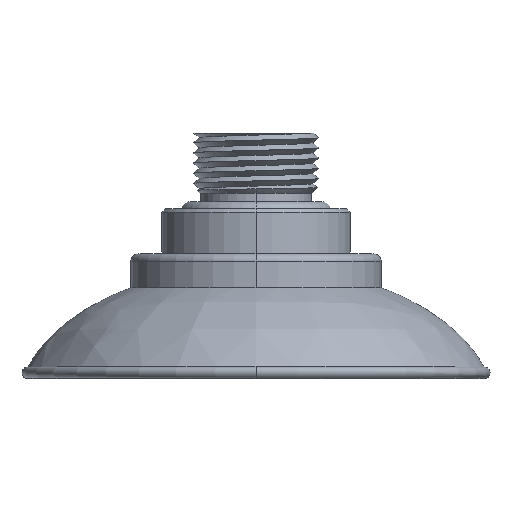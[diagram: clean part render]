
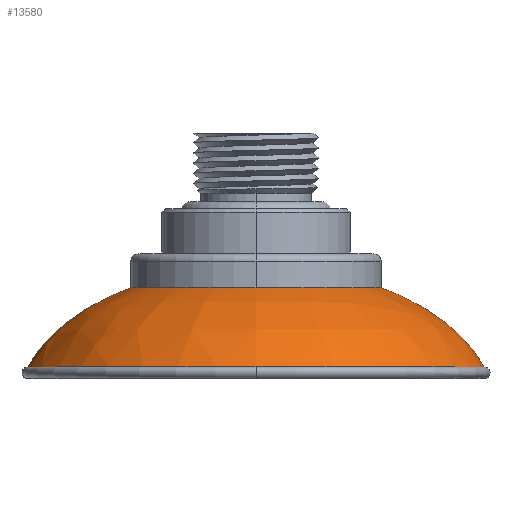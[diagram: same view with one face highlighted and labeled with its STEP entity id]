
A CAD part, top view. The second image highlights one B-rep face of the part: STEP entity #13580.
In plain terms, the highlighted free-form (B-spline) face has degree [3, 3] with [4, 4] control points.
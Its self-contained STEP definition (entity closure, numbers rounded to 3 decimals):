
#1067 = CARTESIAN_POINT ( 'NONE',  ( 30.25, -15., 60.5 ) ) ;
#1136 = CARTESIAN_POINT ( 'NONE',  ( -30.25, -15., 60.5 ) ) ;
#1263 = ORIENTED_EDGE ( 'NONE', *, *, #6776, .F. ) ;
#1276 = EDGE_CURVE ( 'NONE', #16470, #16434, #4913, .T. ) ;
#1790 = CARTESIAN_POINT ( 'NONE',  ( -16.6, -4.5, 0. ) ) ;
#2271 = CARTESIAN_POINT ( 'NONE',  ( 30.25, -15., 0. ) ) ;
#2277 =( BOUNDED_SURFACE ( )  B_SPLINE_SURFACE ( 3, 3, ( 
 ( #4421, #1136, #1067, #15298 ),
 ( #4275, #2540, #13619, #4203 ),
 ( #7589, #4144, #9172, #10763 ),
 ( #7371, #20288, #8891, #12017 ) ),
 .UNSPECIFIED., .F., .F., .F. ) 
 B_SPLINE_SURFACE_WITH_KNOTS ( ( 4, 4 ),
 ( 4, 4 ),
 ( 0., 1. ),
 ( 0., 1. ),
 .UNSPECIFIED. ) 
 GEOMETRIC_REPRESENTATION_ITEM ( )  RATIONAL_B_SPLINE_SURFACE ( (
 ( 1., 0.333, 0.333, 1.),
 ( 1., 0.333, 0.333, 1.),
 ( 1., 0.333, 0.333, 1.),
 ( 1., 0.333, 0.333, 1.) ) ) 
 REPRESENTATION_ITEM ( '' )  SURFACE ( )  );
#2352 = VERTEX_POINT ( 'NONE', #10704 ) ;
#2392 = CARTESIAN_POINT ( 'NONE',  ( 0., -4.5, 16.6 ) ) ;
#2540 = CARTESIAN_POINT ( 'NONE',  ( -27.113, -9.147, 54.226 ) ) ;
#2764 = CARTESIAN_POINT ( 'NONE',  ( 0., -15., 0. ) ) ;
#2985 = CARTESIAN_POINT ( 'NONE',  ( -30.25, -15., 0. ) ) ;
#3387 = AXIS2_PLACEMENT_3D ( 'NONE', #7693, #9284, #5975 ) ;
#3503 = CIRCLE ( 'NONE', #5403, 30.25 ) ;
#4017 = DIRECTION ( 'NONE',  ( 0., 1., 0. ) ) ;
#4144 = CARTESIAN_POINT ( 'NONE',  ( -20.222, -5.717, 40.444 ) ) ;
#4203 = CARTESIAN_POINT ( 'NONE',  ( 27.113, -9.147, 0. ) ) ;
#4275 = CARTESIAN_POINT ( 'NONE',  ( -27.113, -9.147, 0. ) ) ;
#4421 = CARTESIAN_POINT ( 'NONE',  ( -30.25, -15., 0. ) ) ;
#4553 = ORIENTED_EDGE ( 'NONE', *, *, #13446, .T. ) ;
#4565 = DIRECTION ( 'NONE',  ( 0., 1., 0. ) ) ;
#4703 = CARTESIAN_POINT ( 'NONE',  ( 0., -15., 0. ) ) ;
#4913 = B_SPLINE_CURVE_WITH_KNOTS ( 'NONE', 3,
 ( #17540, #8087, #19203, #1790 ),
 .UNSPECIFIED., .F., .F.,
 ( 4, 4 ),
 ( 0., 1. ),
 .UNSPECIFIED. ) ;
#5403 = AXIS2_PLACEMENT_3D ( 'NONE', #4703, #4565, #7797 ) ;
#5741 = DIRECTION ( 'NONE',  ( 0., 0., 1. ) ) ;
#5843 = AXIS2_PLACEMENT_3D ( 'NONE', #15089, #4017, #18295 ) ;
#5975 = DIRECTION ( 'NONE',  ( 0., 0., 1. ) ) ;
#6776 = EDGE_CURVE ( 'NONE', #16434, #20164, #13738, .T. ) ;
#7172 = CARTESIAN_POINT ( 'NONE',  ( 20.222, -5.717, 0. ) ) ;
#7371 = CARTESIAN_POINT ( 'NONE',  ( -16.6, -4.5, 0. ) ) ;
#7577 = ORIENTED_EDGE ( 'NONE', *, *, #15349, .T. ) ;
#7589 = CARTESIAN_POINT ( 'NONE',  ( -20.222, -5.717, 0. ) ) ;
#7693 = CARTESIAN_POINT ( 'NONE',  ( 0., -4.5, 0. ) ) ;
#7702 = FACE_OUTER_BOUND ( 'NONE', #10290, .T. ) ;
#7797 = DIRECTION ( 'NONE',  ( 0., 0., 1. ) ) ;
#8087 = CARTESIAN_POINT ( 'NONE',  ( -27.113, -9.147, 0. ) ) ;
#8809 = CIRCLE ( 'NONE', #3387, 16.6 ) ;
#8891 = CARTESIAN_POINT ( 'NONE',  ( 16.6, -4.5, 33.2 ) ) ;
#8987 = CARTESIAN_POINT ( 'NONE',  ( 30.25, -15., 0. ) ) ;
#8994 = B_SPLINE_CURVE_WITH_KNOTS ( 'NONE', 3,
 ( #2271, #18231, #7172, #18092 ),
 .UNSPECIFIED., .F., .F.,
 ( 4, 4 ),
 ( 0., 1. ),
 .UNSPECIFIED. ) ;
#9127 = DIRECTION ( 'NONE',  ( 0., 1., 0. ) ) ;
#9172 = CARTESIAN_POINT ( 'NONE',  ( 20.222, -5.717, 40.444 ) ) ;
#9284 = DIRECTION ( 'NONE',  ( 0., 1., 0. ) ) ;
#9317 = EDGE_CURVE ( 'NONE', #20164, #2352, #8809, .T. ) ;
#9731 = VERTEX_POINT ( 'NONE', #8987 ) ;
#10290 = EDGE_LOOP ( 'NONE', ( #13623, #7577, #16538, #4553, #14036, #1263 ) ) ;
#10704 = CARTESIAN_POINT ( 'NONE',  ( 16.6, -4.5, 0. ) ) ;
#10763 = CARTESIAN_POINT ( 'NONE',  ( 20.222, -5.717, 0. ) ) ;
#12017 = CARTESIAN_POINT ( 'NONE',  ( 16.6, -4.5, 0. ) ) ;
#13446 = EDGE_CURVE ( 'NONE', #9731, #2352, #8994, .T. ) ;
#13580 = ADVANCED_FACE ( 'NONE', ( #7702 ), #2277, .F. ) ;
#13619 = CARTESIAN_POINT ( 'NONE',  ( 27.113, -9.147, 54.226 ) ) ;
#13623 = ORIENTED_EDGE ( 'NONE', *, *, #1276, .F. ) ;
#13715 = VERTEX_POINT ( 'NONE', #18771 ) ;
#13738 = CIRCLE ( 'NONE', #5843, 16.6 ) ;
#14036 = ORIENTED_EDGE ( 'NONE', *, *, #9317, .F. ) ;
#14074 = EDGE_CURVE ( 'NONE', #13715, #9731, #14135, .T. ) ;
#14135 = CIRCLE ( 'NONE', #15482, 30.25 ) ;
#15089 = CARTESIAN_POINT ( 'NONE',  ( 0., -4.5, 0. ) ) ;
#15298 = CARTESIAN_POINT ( 'NONE',  ( 30.25, -15., 0. ) ) ;
#15349 = EDGE_CURVE ( 'NONE', #16470, #13715, #3503, .T. ) ;
#15482 = AXIS2_PLACEMENT_3D ( 'NONE', #2764, #9127, #5741 ) ;
#16434 = VERTEX_POINT ( 'NONE', #20248 ) ;
#16470 = VERTEX_POINT ( 'NONE', #2985 ) ;
#16538 = ORIENTED_EDGE ( 'NONE', *, *, #14074, .T. ) ;
#17540 = CARTESIAN_POINT ( 'NONE',  ( -30.25, -15., 0. ) ) ;
#18092 = CARTESIAN_POINT ( 'NONE',  ( 16.6, -4.5, 0. ) ) ;
#18231 = CARTESIAN_POINT ( 'NONE',  ( 27.113, -9.147, 0. ) ) ;
#18295 = DIRECTION ( 'NONE',  ( 0., 0., 1. ) ) ;
#18771 = CARTESIAN_POINT ( 'NONE',  ( 0., -15., 30.25 ) ) ;
#19203 = CARTESIAN_POINT ( 'NONE',  ( -20.222, -5.717, 0. ) ) ;
#20164 = VERTEX_POINT ( 'NONE', #2392 ) ;
#20248 = CARTESIAN_POINT ( 'NONE',  ( -16.6, -4.5, 0. ) ) ;
#20288 = CARTESIAN_POINT ( 'NONE',  ( -16.6, -4.5, 33.2 ) ) ;
